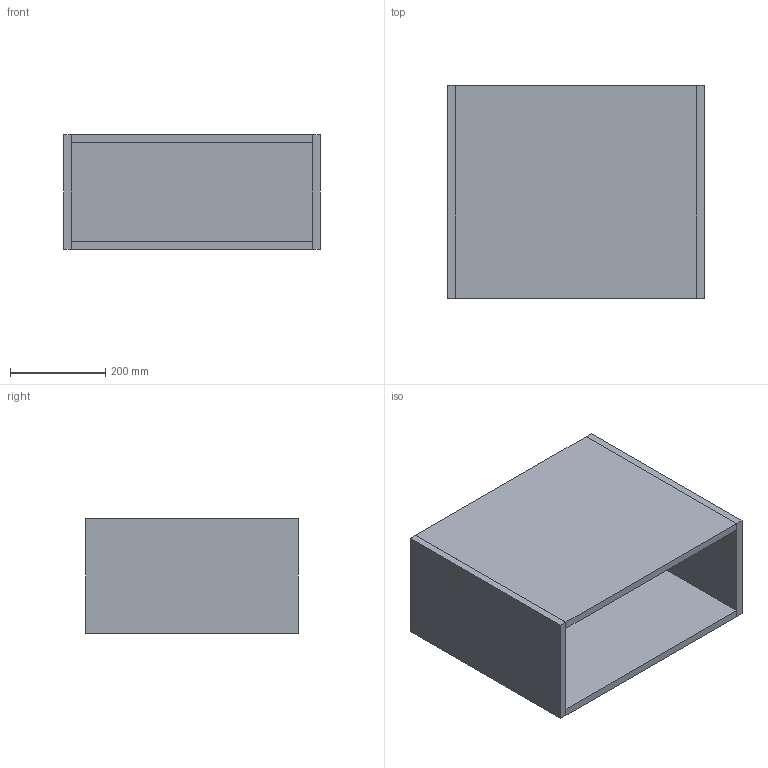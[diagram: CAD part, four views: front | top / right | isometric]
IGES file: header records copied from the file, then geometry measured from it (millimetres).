
Start section: Data from Parasolid IGES Translator 19.0.9, Copyright(c) 2006 Siemens PL M Software. All Rights Reserved.
Global section: file name: noorth-SI-H 24 D 47 W 54_8299.igs; native system: By Siemens PLM Incorporated; preprocessor: XPlus GENERIC/IGES 19.0.9; author: Noname; organization: Noname; date: 20200530.115144; units: metre
Bounding box: 540.01 x 448.06 x 240 mm (x, y, z)
Volume: 11024915.3 mm3; surface area: 1660969.7 mm2
Topology: 5 solids, 5 shells, 30 faces, 60 edges, 40 vertices
Faces by surface type: plane 30
